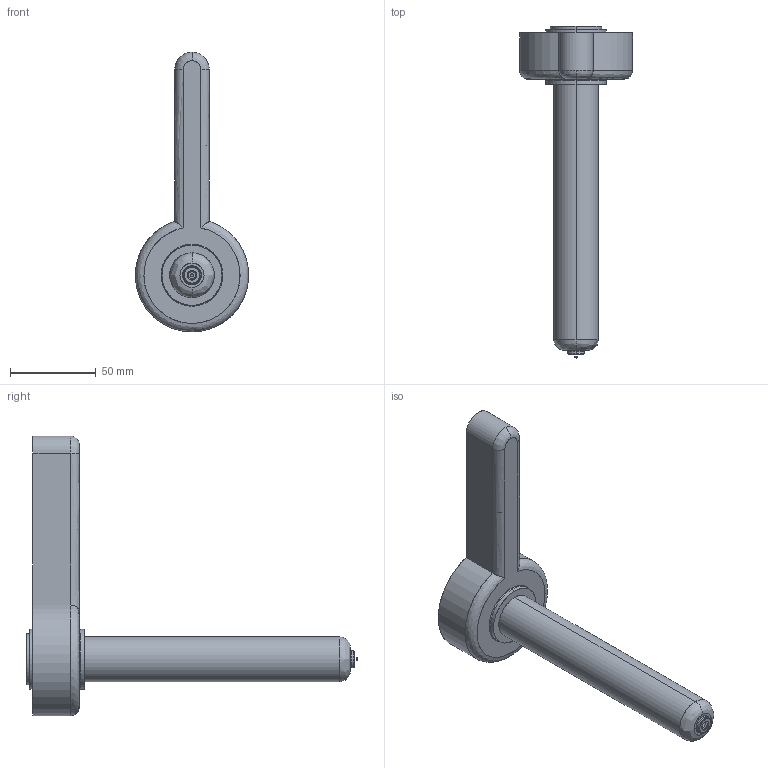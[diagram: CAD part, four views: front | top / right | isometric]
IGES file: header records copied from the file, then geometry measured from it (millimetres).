
Start section: SolidWorks IGES file using analytic representation for surfaces
Global section: file name: C:\Documents and Settings\ws-20\Desktop\TEM\Sede UGER3554-S-A C-159 L-191 Ød-1.5.IGS; native system: SolidWorks 2012; preprocessor: SolidWorks 2012; author: ws-20; date: 120410.083617; units: millimetre
Bounding box: 65.99 x 193.4 x 163 mm (x, y, z)
Surface area: 33663.1 mm2 (no closed solid volume)
Topology: 0 solids, 0 shells, 42 faces, 894 edges, 894 vertices
Faces by surface type: revolution 25, bspline 17
